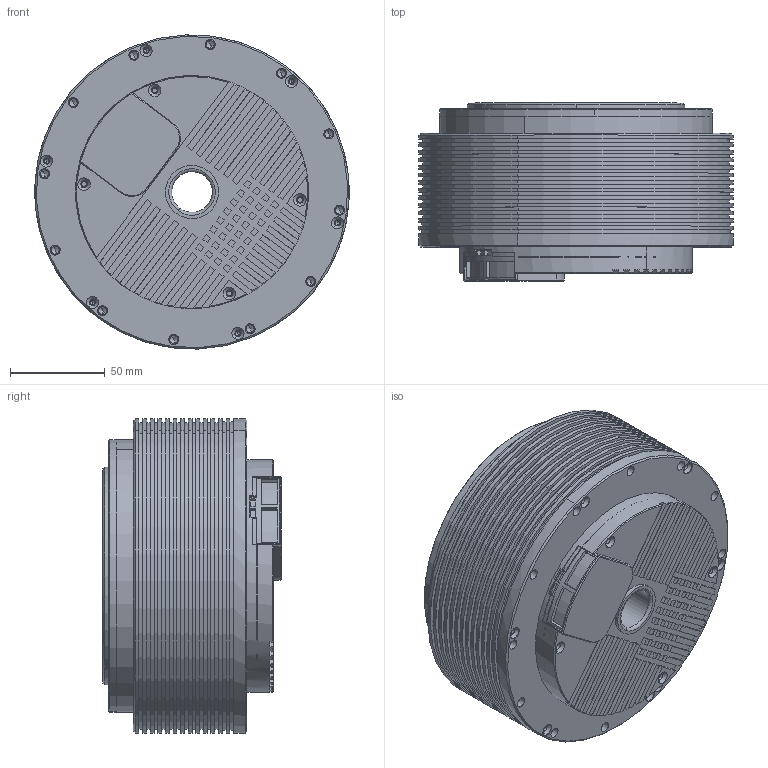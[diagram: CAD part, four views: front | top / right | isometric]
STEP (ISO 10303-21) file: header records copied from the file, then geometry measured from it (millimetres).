
FILE_DESCRIPTION (( 'STEP AP203' ), '1' );
FILE_NAME ('1MT.054.008.STEP', '2024-12-26T01:04:01', ( 'China' ), ( 'Microsoft' ), 'SwSTEP 2.0', 'SolidWorks 2020', '' );
FILE_SCHEMA (( 'CONFIG_CONTROL_DESIGN' ));
Products named in the file (1): 1MT.054.008
Bounding box: 165.9 x 94 x 165.9 mm (x, y, z)
Volume: 1465253.1 mm3; surface area: 242535.8 mm2
Topology: 2 solids, 17 shells, 2323 faces, 6188 edges, 3910 vertices
Faces by surface type: cylinder 1065, plane 833, cone 239, bspline 178, torus 8
Entity records: 216468 total; most frequent: CARTESIAN_POINT 158504, DIRECTION 12393, ORIENTED_EDGE 12112, EDGE_CURVE 6056, AXIS2_PLACEMENT_3D 4807, VERTEX_POINT 3910, LINE 2779, VECTOR 2779
